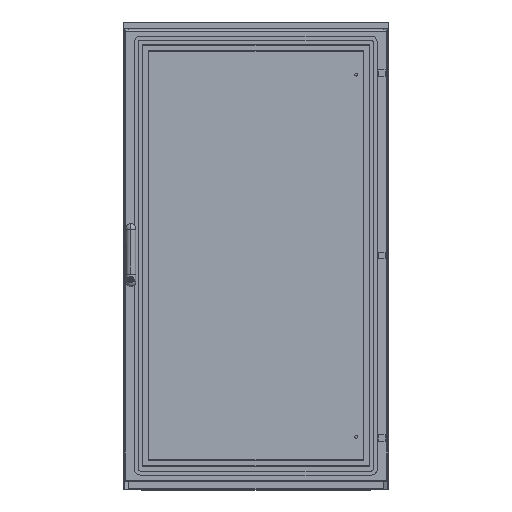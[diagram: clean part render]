
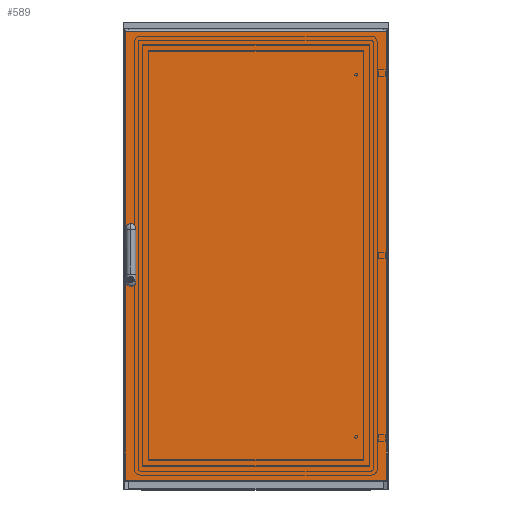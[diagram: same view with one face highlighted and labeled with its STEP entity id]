
A CAD part, front view. The second image highlights one B-rep face of the part: STEP entity #589.
In plain terms, the highlighted planar face has unit normal (0, -1, 0) as drawn and (0, 0, 1) by its records, which use the part's own axes.
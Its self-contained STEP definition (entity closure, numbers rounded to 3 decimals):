
#589 = ADVANCED_FACE ( 'NONE', ( #11760, #24384, #15004 ), #5871, .F. ) ;
#1409 = CARTESIAN_POINT ( 'NONE',  ( 9.7, 647.75, 19. ) ) ;
#1493 = VERTEX_POINT ( 'NONE', #37664 ) ;
#1578 = LINE ( 'NONE', #38789, #2702 ) ;
#2702 = VECTOR ( 'NONE', #13983, 1000. ) ;
#2973 = CARTESIAN_POINT ( 'NONE',  ( 9.7, 712.25, 19. ) ) ;
#3271 = CARTESIAN_POINT ( 'NONE',  ( 791., 1360., 19. ) ) ;
#3343 = DIRECTION ( 'NONE',  ( 1., 0., 0. ) ) ;
#3552 = CIRCLE ( 'NONE', #31484, 9.5 ) ;
#4315 = CIRCLE ( 'NONE', #4978, 9.5 ) ;
#4447 = DIRECTION ( 'NONE',  ( 1., 0., 0. ) ) ;
#4874 = VERTEX_POINT ( 'NONE', #25465 ) ;
#4912 = ORIENTED_EDGE ( 'NONE', *, *, #23241, .T. ) ;
#4922 = DIRECTION ( 'NONE',  ( -1., 0., 0. ) ) ;
#4978 = AXIS2_PLACEMENT_3D ( 'NONE', #13994, #39014, #4447 ) ;
#5289 = CARTESIAN_POINT ( 'NONE',  ( 28.7, 712.25, 19. ) ) ;
#5446 = VERTEX_POINT ( 'NONE', #1409 ) ;
#5871 = PLANE ( 'NONE',  #8730 ) ;
#5876 = EDGE_CURVE ( 'NONE', #35980, #5446, #20776, .T. ) ;
#6052 = CARTESIAN_POINT ( 'NONE',  ( 791., 1357., 19. ) ) ;
#6524 = ORIENTED_EDGE ( 'NONE', *, *, #12963, .F. ) ;
#6677 = VERTEX_POINT ( 'NONE', #14259 ) ;
#6798 = EDGE_CURVE ( 'NONE', #1493, #9772, #37003, .T. ) ;
#6987 = EDGE_LOOP ( 'NONE', ( #7491, #27039, #36958, #37734 ) ) ;
#7027 = VERTEX_POINT ( 'NONE', #31318 ) ;
#7040 = CARTESIAN_POINT ( 'NONE',  ( 9.7, 647.75, 19. ) ) ;
#7491 = ORIENTED_EDGE ( 'NONE', *, *, #21888, .F. ) ;
#7712 = EDGE_CURVE ( 'NONE', #24675, #35980, #40022, .T. ) ;
#8228 = DIRECTION ( 'NONE',  ( 0., 0., 1. ) ) ;
#8366 = VECTOR ( 'NONE', #17932, 1000. ) ;
#8449 = CARTESIAN_POINT ( 'NONE',  ( 28.7, 599.75, 19. ) ) ;
#8636 = DIRECTION ( 'NONE',  ( 0., 1., 0. ) ) ;
#8730 = AXIS2_PLACEMENT_3D ( 'NONE', #27227, #24188, #14616 ) ;
#8926 = EDGE_LOOP ( 'NONE', ( #32625, #14490, #4912, #13400 ) ) ;
#9671 = LINE ( 'NONE', #7040, #35483 ) ;
#9772 = VERTEX_POINT ( 'NONE', #31518 ) ;
#9851 = DIRECTION ( 'NONE',  ( 0., 0., 1. ) ) ;
#11300 = VECTOR ( 'NONE', #20412, 1000. ) ;
#11760 = FACE_BOUND ( 'NONE', #23284, .T. ) ;
#11945 = EDGE_CURVE ( 'NONE', #22377, #6677, #36273, .T. ) ;
#12963 = EDGE_CURVE ( 'NONE', #7027, #24675, #3552, .T. ) ;
#13400 = ORIENTED_EDGE ( 'NONE', *, *, #6798, .T. ) ;
#13983 = DIRECTION ( 'NONE',  ( 0., -1., 0. ) ) ;
#13994 = CARTESIAN_POINT ( 'NONE',  ( 19.2, 760.25, 19. ) ) ;
#14259 = CARTESIAN_POINT ( 'NONE',  ( 28.7, 760.25, 19. ) ) ;
#14490 = ORIENTED_EDGE ( 'NONE', *, *, #28805, .T. ) ;
#14616 = DIRECTION ( 'NONE',  ( -1., 0., 0. ) ) ;
#14865 = VECTOR ( 'NONE', #4922, 1000. ) ;
#15004 = FACE_OUTER_BOUND ( 'NONE', #8926, .T. ) ;
#15448 = CIRCLE ( 'NONE', #19357, 9.5 ) ;
#16623 = CARTESIAN_POINT ( 'NONE',  ( 19.2, 599.75, 19. ) ) ;
#16746 = CARTESIAN_POINT ( 'NONE',  ( 28.7, 760.25, 19. ) ) ;
#17932 = DIRECTION ( 'NONE',  ( 0., -1., 0. ) ) ;
#18777 = EDGE_CURVE ( 'NONE', #5446, #7027, #9671, .T. ) ;
#19357 = AXIS2_PLACEMENT_3D ( 'NONE', #34671, #9851, #3343 ) ;
#20412 = DIRECTION ( 'NONE',  ( 0., 1., 0. ) ) ;
#20776 = CIRCLE ( 'NONE', #26654, 9.5 ) ;
#21352 = CARTESIAN_POINT ( 'NONE',  ( 0., 3., 19. ) ) ;
#21888 = EDGE_CURVE ( 'NONE', #23626, #23335, #36842, .T. ) ;
#22079 = DIRECTION ( 'NONE',  ( 0., -1., 0. ) ) ;
#22284 = VECTOR ( 'NONE', #24355, 1000. ) ;
#22377 = VERTEX_POINT ( 'NONE', #5289 ) ;
#22947 = DIRECTION ( 'NONE',  ( 0., 0., 1. ) ) ;
#23236 = CARTESIAN_POINT ( 'NONE',  ( 28.7, 647.75, 19. ) ) ;
#23241 = EDGE_CURVE ( 'NONE', #4874, #1493, #1578, .T. ) ;
#23284 = EDGE_LOOP ( 'NONE', ( #28517, #34278, #39885, #6524 ) ) ;
#23335 = VERTEX_POINT ( 'NONE', #2973 ) ;
#23626 = VERTEX_POINT ( 'NONE', #25950 ) ;
#24188 = DIRECTION ( 'NONE',  ( 0., 0., -1. ) ) ;
#24355 = DIRECTION ( 'NONE',  ( 0., 1., 0. ) ) ;
#24384 = FACE_BOUND ( 'NONE', #6987, .T. ) ;
#24675 = VERTEX_POINT ( 'NONE', #8449 ) ;
#25465 = CARTESIAN_POINT ( 'NONE',  ( 3., 1357., 19. ) ) ;
#25950 = CARTESIAN_POINT ( 'NONE',  ( 9.7, 760.25, 19. ) ) ;
#26198 = DIRECTION ( 'NONE',  ( 1., 0., 0. ) ) ;
#26481 = CARTESIAN_POINT ( 'NONE',  ( 0., 1357., 19. ) ) ;
#26654 = AXIS2_PLACEMENT_3D ( 'NONE', #39130, #8228, #35678 ) ;
#27039 = ORIENTED_EDGE ( 'NONE', *, *, #37570, .F. ) ;
#27227 = CARTESIAN_POINT ( 'NONE',  ( 0., 1360., 19. ) ) ;
#27449 = DIRECTION ( 'NONE',  ( 1., 0., 0. ) ) ;
#27620 = EDGE_CURVE ( 'NONE', #9772, #27807, #31142, .T. ) ;
#27807 = VERTEX_POINT ( 'NONE', #6052 ) ;
#28517 = ORIENTED_EDGE ( 'NONE', *, *, #18777, .F. ) ;
#28805 = EDGE_CURVE ( 'NONE', #27807, #4874, #35836, .T. ) ;
#31142 = LINE ( 'NONE', #3271, #38804 ) ;
#31318 = CARTESIAN_POINT ( 'NONE',  ( 9.7, 599.75, 19. ) ) ;
#31484 = AXIS2_PLACEMENT_3D ( 'NONE', #16623, #22947, #26198 ) ;
#31518 = CARTESIAN_POINT ( 'NONE',  ( 791., 3., 19. ) ) ;
#32625 = ORIENTED_EDGE ( 'NONE', *, *, #27620, .T. ) ;
#33417 = CARTESIAN_POINT ( 'NONE',  ( 9.7, 760.25, 19. ) ) ;
#34278 = ORIENTED_EDGE ( 'NONE', *, *, #5876, .F. ) ;
#34522 = VECTOR ( 'NONE', #27449, 1000. ) ;
#34671 = CARTESIAN_POINT ( 'NONE',  ( 19.2, 712.25, 19. ) ) ;
#35483 = VECTOR ( 'NONE', #22079, 1000. ) ;
#35678 = DIRECTION ( 'NONE',  ( 1., 0., 0. ) ) ;
#35836 = LINE ( 'NONE', #26481, #14865 ) ;
#35980 = VERTEX_POINT ( 'NONE', #23236 ) ;
#36273 = LINE ( 'NONE', #16746, #11300 ) ;
#36842 = LINE ( 'NONE', #33417, #8366 ) ;
#36958 = ORIENTED_EDGE ( 'NONE', *, *, #11945, .F. ) ;
#37003 = LINE ( 'NONE', #21352, #34522 ) ;
#37570 = EDGE_CURVE ( 'NONE', #6677, #23626, #4315, .T. ) ;
#37664 = CARTESIAN_POINT ( 'NONE',  ( 3., 3., 19. ) ) ;
#37734 = ORIENTED_EDGE ( 'NONE', *, *, #39211, .F. ) ;
#38789 = CARTESIAN_POINT ( 'NONE',  ( 3., 1360., 19. ) ) ;
#38804 = VECTOR ( 'NONE', #8636, 1000. ) ;
#39014 = DIRECTION ( 'NONE',  ( 0., 0., 1. ) ) ;
#39130 = CARTESIAN_POINT ( 'NONE',  ( 19.2, 647.75, 19. ) ) ;
#39211 = EDGE_CURVE ( 'NONE', #23335, #22377, #15448, .T. ) ;
#39815 = CARTESIAN_POINT ( 'NONE',  ( 28.7, 647.75, 19. ) ) ;
#39885 = ORIENTED_EDGE ( 'NONE', *, *, #7712, .F. ) ;
#40022 = LINE ( 'NONE', #39815, #22284 ) ;
